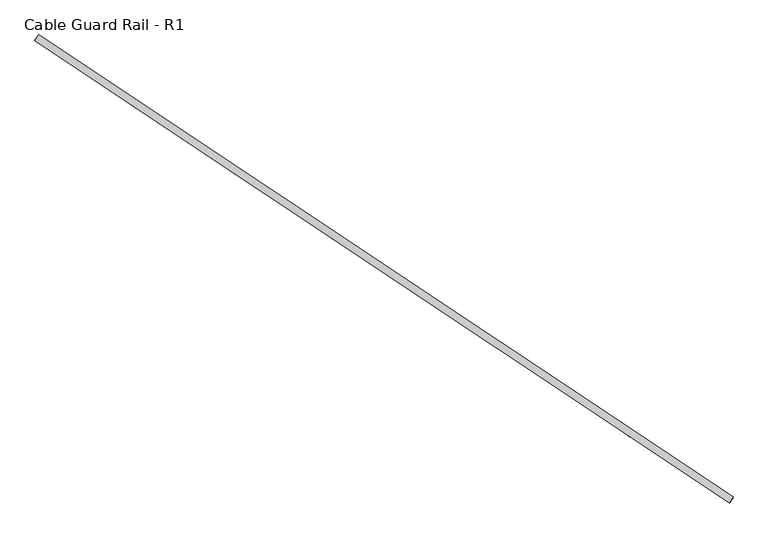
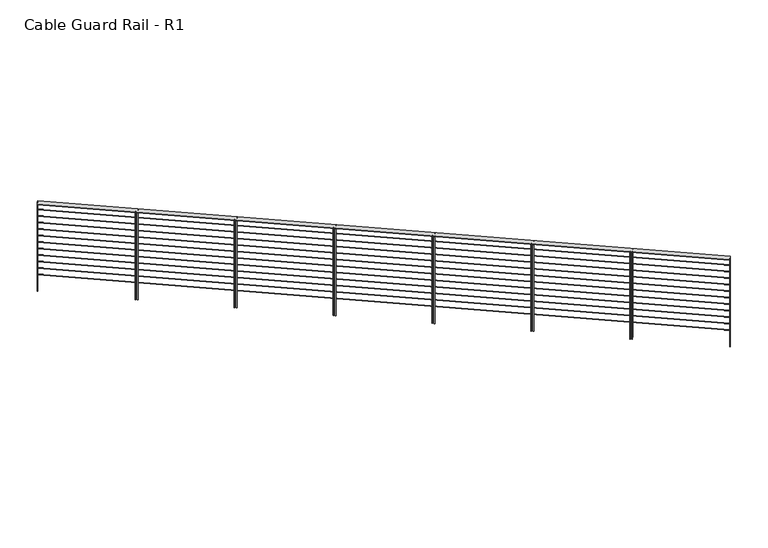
"""IFC4 building model written with IfcOpenShell, lengths in millimetres: railing geometry, Cable Guard Rail - R1."""

from ifc_helpers import new_model, si_unit, frame, origin, place, context, project, spatial, polyline, ellipse_curve, outline, extrude, faceted_brep, source, transform, mapped, element, save
from ifc_brep_helpers import plane_surface, cylinder_surface, advanced_brep


def cable_guard_rail_r1_49ae5d48(model_context):
    return source(origin(), model_context, "Body", "SolidModel", [
        faceted_brep([(47478.7559081, 177920.5615783, 294462.2), (47436.5035564, 177857.1488133, 294462.2), (47436.5035564, 177857.1488133, 294449.4823381), (47478.7559081, 177920.5615783, 294449.4823381), (40044.7334688, 182873.9007104, 294933.4862415), (40044.7334688, 182873.9007104, 294920.7685796), (40002.4811171, 182810.4879453, 294920.7685796), (40002.4811171, 182810.4879453, 294933.4862415)], [[[0, 1, 2, 3]], [[4, 5, 6, 7]], [[1, 0, 4, 7]], [[2, 1, 7, 6]], [[3, 2, 6, 5]], [[0, 3, 5, 4]]]),
        advanced_brep(
        [(47455.8692176, 177886.2129973, 294347.9), (47459.3902469, 177891.4973943, 294347.9), (40021.8467783, 182839.5521293, 294819.1862415), (40025.3678076, 182844.8365264, 294819.1862415)],
        [
            (0, 1, ellipse_curve(frame((47457.6297323, 177888.8551958, 294347.9), z_axis=(0.8321885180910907, -0.5544928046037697, 0.0), x_axis=(0.0, 0.0, -1.0)), 3.1794155, 3.175)),
            (1, 0, ellipse_curve(frame((47457.6297323, 177888.8551958, 294347.9), z_axis=(0.8321885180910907, -0.5544928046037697, 0.0), x_axis=(0.0, 0.0, -1.0)), 3.1794155, 3.175)),
            (2, 3, ellipse_curve(frame((40023.6072929, 182842.1943278, 294819.1862415), z_axis=(-0.8321885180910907, 0.5544928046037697, 0.0), x_axis=(0.0, 0.0, -1.0)), 3.1794155, 3.175)),
            (3, 2, ellipse_curve(frame((40023.6072929, 182842.1943278, 294819.1862415), z_axis=(-0.8321885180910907, 0.5544928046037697, 0.0), x_axis=(0.0, 0.0, -1.0)), 3.1794155, 3.175)),
            (0, 2),
            (3, 1),
        ],
        [
            plane_surface(frame((47457.6297323, 177888.8551958, 294347.9), z_axis=(0.8321885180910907, -0.5544928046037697, 0.0), x_axis=(0.5544928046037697, 0.8321885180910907, 0.0))),
            plane_surface(frame((40023.6072929, 182842.1943278, 294819.1862415), z_axis=(-0.8321885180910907, 0.5544928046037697, 0.0), x_axis=(0.5544928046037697, 0.8321885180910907, 0.0))),
            cylinder_surface(frame((47457.6297323, 177888.8551958, 294347.9), z_axis=(0.8310328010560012, -0.5537227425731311, -0.052684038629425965), x_axis=(0.5544928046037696, 0.8321885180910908, 0.0)), 3.175),
        ],
        [
            (0, [[1, 2]]),
            (1, [[3, 4]]),
            (2, [[-1, 5, -4, 6]]),
            (2, [[-2, -6, -3, -5]]),
        ],
    ),
        advanced_brep(
        [(47455.8692176, 177886.2129973, 294246.3), (47459.3902469, 177891.4973943, 294246.3), (40021.8467783, 182839.5521293, 294717.5862415), (40025.3678076, 182844.8365264, 294717.5862415)],
        [
            (0, 1, ellipse_curve(frame((47457.6297323, 177888.8551958, 294246.3), z_axis=(0.8321885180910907, -0.5544928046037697, 0.0), x_axis=(0.0, 0.0, -1.0)), 3.1794155, 3.175)),
            (1, 0, ellipse_curve(frame((47457.6297323, 177888.8551958, 294246.3), z_axis=(0.8321885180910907, -0.5544928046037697, 0.0), x_axis=(0.0, 0.0, -1.0)), 3.1794155, 3.175)),
            (2, 3, ellipse_curve(frame((40023.6072929, 182842.1943278, 294717.5862415), z_axis=(-0.8321885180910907, 0.5544928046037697, 0.0), x_axis=(0.0, 0.0, -1.0)), 3.1794155, 3.175)),
            (3, 2, ellipse_curve(frame((40023.6072929, 182842.1943278, 294717.5862415), z_axis=(-0.8321885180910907, 0.5544928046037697, 0.0), x_axis=(0.0, 0.0, -1.0)), 3.1794155, 3.175)),
            (0, 2),
            (3, 1),
        ],
        [
            plane_surface(frame((47457.6297323, 177888.8551958, 294246.3), z_axis=(0.8321885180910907, -0.5544928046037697, 0.0), x_axis=(0.5544928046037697, 0.8321885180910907, 0.0))),
            plane_surface(frame((40023.6072929, 182842.1943278, 294717.5862415), z_axis=(-0.8321885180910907, 0.5544928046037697, 0.0), x_axis=(0.5544928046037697, 0.8321885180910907, 0.0))),
            cylinder_surface(frame((47457.6297323, 177888.8551958, 294246.3), z_axis=(0.8310328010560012, -0.5537227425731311, -0.052684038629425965), x_axis=(0.5544928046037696, 0.8321885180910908, 0.0)), 3.175),
        ],
        [
            (0, [[1, 2]]),
            (1, [[3, 4]]),
            (2, [[-1, 5, -4, 6]]),
            (2, [[-2, -6, -3, -5]]),
        ],
    ),
        advanced_brep(
        [(47455.8692176, 177886.2129973, 294144.7), (47459.3902469, 177891.4973943, 294144.7), (40021.8467783, 182839.5521293, 294615.9862415), (40025.3678076, 182844.8365264, 294615.9862415)],
        [
            (0, 1, ellipse_curve(frame((47457.6297323, 177888.8551958, 294144.7), z_axis=(0.8321885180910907, -0.5544928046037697, 0.0), x_axis=(0.0, 0.0, -1.0)), 3.1794155, 3.175)),
            (1, 0, ellipse_curve(frame((47457.6297323, 177888.8551958, 294144.7), z_axis=(0.8321885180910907, -0.5544928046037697, 0.0), x_axis=(0.0, 0.0, -1.0)), 3.1794155, 3.175)),
            (2, 3, ellipse_curve(frame((40023.6072929, 182842.1943278, 294615.9862415), z_axis=(-0.8321885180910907, 0.5544928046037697, 0.0), x_axis=(0.0, 0.0, -1.0)), 3.1794155, 3.175)),
            (3, 2, ellipse_curve(frame((40023.6072929, 182842.1943278, 294615.9862415), z_axis=(-0.8321885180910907, 0.5544928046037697, 0.0), x_axis=(0.0, 0.0, -1.0)), 3.1794155, 3.175)),
            (0, 2),
            (3, 1),
        ],
        [
            plane_surface(frame((47457.6297323, 177888.8551958, 294144.7), z_axis=(0.8321885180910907, -0.5544928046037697, 0.0), x_axis=(0.5544928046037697, 0.8321885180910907, 0.0))),
            plane_surface(frame((40023.6072929, 182842.1943278, 294615.9862415), z_axis=(-0.8321885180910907, 0.5544928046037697, 0.0), x_axis=(0.5544928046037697, 0.8321885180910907, 0.0))),
            cylinder_surface(frame((47457.6297323, 177888.8551958, 294144.7), z_axis=(0.8310328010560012, -0.5537227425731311, -0.052684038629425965), x_axis=(0.5544928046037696, 0.8321885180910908, 0.0)), 3.175),
        ],
        [
            (0, [[1, 2]]),
            (1, [[3, 4]]),
            (2, [[-1, 5, -4, 6]]),
            (2, [[-2, -6, -3, -5]]),
        ],
    ),
        advanced_brep(
        [(47455.8692176, 177886.2129973, 294043.1), (47459.3902469, 177891.4973943, 294043.1), (40021.8467783, 182839.5521293, 294514.3862415), (40025.3678076, 182844.8365264, 294514.3862415)],
        [
            (0, 1, ellipse_curve(frame((47457.6297323, 177888.8551958, 294043.1), z_axis=(0.8321885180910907, -0.5544928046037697, 0.0), x_axis=(0.0, 0.0, -1.0)), 3.1794155, 3.175)),
            (1, 0, ellipse_curve(frame((47457.6297323, 177888.8551958, 294043.1), z_axis=(0.8321885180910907, -0.5544928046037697, 0.0), x_axis=(0.0, 0.0, -1.0)), 3.1794155, 3.175)),
            (2, 3, ellipse_curve(frame((40023.6072929, 182842.1943278, 294514.3862415), z_axis=(-0.8321885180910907, 0.5544928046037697, 0.0), x_axis=(0.0, 0.0, -1.0)), 3.1794155, 3.175)),
            (3, 2, ellipse_curve(frame((40023.6072929, 182842.1943278, 294514.3862415), z_axis=(-0.8321885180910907, 0.5544928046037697, 0.0), x_axis=(0.0, 0.0, -1.0)), 3.1794155, 3.175)),
            (0, 2),
            (3, 1),
        ],
        [
            plane_surface(frame((47457.6297323, 177888.8551958, 294043.1), z_axis=(0.8321885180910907, -0.5544928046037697, 0.0), x_axis=(0.5544928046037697, 0.8321885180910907, 0.0))),
            plane_surface(frame((40023.6072929, 182842.1943278, 294514.3862415), z_axis=(-0.8321885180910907, 0.5544928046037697, 0.0), x_axis=(0.5544928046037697, 0.8321885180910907, 0.0))),
            cylinder_surface(frame((47457.6297323, 177888.8551958, 294043.1), z_axis=(0.8310328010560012, -0.5537227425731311, -0.052684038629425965), x_axis=(0.5544928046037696, 0.8321885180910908, 0.0)), 3.175),
        ],
        [
            (0, [[1, 2]]),
            (1, [[3, 4]]),
            (2, [[-1, 5, -4, 6]]),
            (2, [[-2, -6, -3, -5]]),
        ],
    ),
        advanced_brep(
        [(47455.8692176, 177886.2129973, 293941.5), (47459.3902469, 177891.4973943, 293941.5), (40021.8467783, 182839.5521293, 294412.7862415), (40025.3678076, 182844.8365264, 294412.7862415)],
        [
            (0, 1, ellipse_curve(frame((47457.6297323, 177888.8551958, 293941.5), z_axis=(0.8321885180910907, -0.5544928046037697, 0.0), x_axis=(0.0, 0.0, -1.0)), 3.1794155, 3.175)),
            (1, 0, ellipse_curve(frame((47457.6297323, 177888.8551958, 293941.5), z_axis=(0.8321885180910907, -0.5544928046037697, 0.0), x_axis=(0.0, 0.0, -1.0)), 3.1794155, 3.175)),
            (2, 3, ellipse_curve(frame((40023.6072929, 182842.1943278, 294412.7862415), z_axis=(-0.8321885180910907, 0.5544928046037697, 0.0), x_axis=(0.0, 0.0, -1.0)), 3.1794155, 3.175)),
            (3, 2, ellipse_curve(frame((40023.6072929, 182842.1943278, 294412.7862415), z_axis=(-0.8321885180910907, 0.5544928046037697, 0.0), x_axis=(0.0, 0.0, -1.0)), 3.1794155, 3.175)),
            (0, 2),
            (3, 1),
        ],
        [
            plane_surface(frame((47457.6297323, 177888.8551958, 293941.5), z_axis=(0.8321885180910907, -0.5544928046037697, 0.0), x_axis=(0.5544928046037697, 0.8321885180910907, 0.0))),
            plane_surface(frame((40023.6072929, 182842.1943278, 294412.7862415), z_axis=(-0.8321885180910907, 0.5544928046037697, 0.0), x_axis=(0.5544928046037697, 0.8321885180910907, 0.0))),
            cylinder_surface(frame((47457.6297323, 177888.8551958, 293941.5), z_axis=(0.8310328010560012, -0.5537227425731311, -0.052684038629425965), x_axis=(0.5544928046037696, 0.8321885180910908, 0.0)), 3.175),
        ],
        [
            (0, [[1, 2]]),
            (1, [[3, 4]]),
            (2, [[-1, 5, -4, 6]]),
            (2, [[-2, -6, -3, -5]]),
        ],
    ),
        advanced_brep(
        [(47455.8692176, 177886.2129973, 293839.9), (47459.3902469, 177891.4973943, 293839.9), (40021.8467783, 182839.5521293, 294311.1862415), (40025.3678076, 182844.8365264, 294311.1862415)],
        [
            (0, 1, ellipse_curve(frame((47457.6297323, 177888.8551958, 293839.9), z_axis=(0.8321885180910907, -0.5544928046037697, 0.0), x_axis=(0.0, 0.0, -1.0)), 3.1794155, 3.175)),
            (1, 0, ellipse_curve(frame((47457.6297323, 177888.8551958, 293839.9), z_axis=(0.8321885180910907, -0.5544928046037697, 0.0), x_axis=(0.0, 0.0, -1.0)), 3.1794155, 3.175)),
            (2, 3, ellipse_curve(frame((40023.6072929, 182842.1943278, 294311.1862415), z_axis=(-0.8321885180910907, 0.5544928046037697, 0.0), x_axis=(0.0, 0.0, -1.0)), 3.1794155, 3.175)),
            (3, 2, ellipse_curve(frame((40023.6072929, 182842.1943278, 294311.1862415), z_axis=(-0.8321885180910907, 0.5544928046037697, 0.0), x_axis=(0.0, 0.0, -1.0)), 3.1794155, 3.175)),
            (0, 2),
            (3, 1),
        ],
        [
            plane_surface(frame((47457.6297323, 177888.8551958, 293839.9), z_axis=(0.8321885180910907, -0.5544928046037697, 0.0), x_axis=(0.5544928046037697, 0.8321885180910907, 0.0))),
            plane_surface(frame((40023.6072929, 182842.1943278, 294311.1862415), z_axis=(-0.8321885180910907, 0.5544928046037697, 0.0), x_axis=(0.5544928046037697, 0.8321885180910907, 0.0))),
            cylinder_surface(frame((47457.6297323, 177888.8551958, 293839.9), z_axis=(0.8310328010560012, -0.5537227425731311, -0.052684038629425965), x_axis=(0.5544928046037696, 0.8321885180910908, 0.0)), 3.175),
        ],
        [
            (0, [[1, 2]]),
            (1, [[3, 4]]),
            (2, [[-1, 5, -4, 6]]),
            (2, [[-2, -6, -3, -5]]),
        ],
    ),
        advanced_brep(
        [(47455.8692176, 177886.2129973, 293738.3), (47459.3902469, 177891.4973943, 293738.3), (40021.8467783, 182839.5521293, 294209.5862415), (40025.3678076, 182844.8365264, 294209.5862415)],
        [
            (0, 1, ellipse_curve(frame((47457.6297323, 177888.8551958, 293738.3), z_axis=(0.8321885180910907, -0.5544928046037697, 0.0), x_axis=(0.0, 0.0, -1.0)), 3.1794155, 3.175)),
            (1, 0, ellipse_curve(frame((47457.6297323, 177888.8551958, 293738.3), z_axis=(0.8321885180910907, -0.5544928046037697, 0.0), x_axis=(0.0, 0.0, -1.0)), 3.1794155, 3.175)),
            (2, 3, ellipse_curve(frame((40023.6072929, 182842.1943278, 294209.5862415), z_axis=(-0.8321885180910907, 0.5544928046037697, 0.0), x_axis=(0.0, 0.0, -1.0)), 3.1794155, 3.175)),
            (3, 2, ellipse_curve(frame((40023.6072929, 182842.1943278, 294209.5862415), z_axis=(-0.8321885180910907, 0.5544928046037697, 0.0), x_axis=(0.0, 0.0, -1.0)), 3.1794155, 3.175)),
            (0, 2),
            (3, 1),
        ],
        [
            plane_surface(frame((47457.6297323, 177888.8551958, 293738.3), z_axis=(0.8321885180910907, -0.5544928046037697, 0.0), x_axis=(0.5544928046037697, 0.8321885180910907, 0.0))),
            plane_surface(frame((40023.6072929, 182842.1943278, 294209.5862415), z_axis=(-0.8321885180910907, 0.5544928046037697, 0.0), x_axis=(0.5544928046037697, 0.8321885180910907, 0.0))),
            cylinder_surface(frame((47457.6297323, 177888.8551958, 293738.3), z_axis=(0.8310328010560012, -0.5537227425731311, -0.052684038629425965), x_axis=(0.5544928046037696, 0.8321885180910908, 0.0)), 3.175),
        ],
        [
            (0, [[1, 2]]),
            (1, [[3, 4]]),
            (2, [[-1, 5, -4, 6]]),
            (2, [[-2, -6, -3, -5]]),
        ],
    ),
        advanced_brep(
        [(47455.8692176, 177886.2129973, 293636.7), (47459.3902469, 177891.4973943, 293636.7), (40021.8467783, 182839.5521293, 294107.9862415), (40025.3678076, 182844.8365264, 294107.9862415)],
        [
            (0, 1, ellipse_curve(frame((47457.6297323, 177888.8551958, 293636.7), z_axis=(0.8321885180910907, -0.5544928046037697, 0.0), x_axis=(0.0, 0.0, -1.0)), 3.1794155, 3.175)),
            (1, 0, ellipse_curve(frame((47457.6297323, 177888.8551958, 293636.7), z_axis=(0.8321885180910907, -0.5544928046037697, 0.0), x_axis=(0.0, 0.0, -1.0)), 3.1794155, 3.175)),
            (2, 3, ellipse_curve(frame((40023.6072929, 182842.1943278, 294107.9862415), z_axis=(-0.8321885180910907, 0.5544928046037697, 0.0), x_axis=(0.0, 0.0, -1.0)), 3.1794155, 3.175)),
            (3, 2, ellipse_curve(frame((40023.6072929, 182842.1943278, 294107.9862415), z_axis=(-0.8321885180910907, 0.5544928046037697, 0.0), x_axis=(0.0, 0.0, -1.0)), 3.1794155, 3.175)),
            (0, 2),
            (3, 1),
        ],
        [
            plane_surface(frame((47457.6297323, 177888.8551958, 293636.7), z_axis=(0.8321885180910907, -0.5544928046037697, 0.0), x_axis=(0.5544928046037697, 0.8321885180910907, 0.0))),
            plane_surface(frame((40023.6072929, 182842.1943278, 294107.9862415), z_axis=(-0.8321885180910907, 0.5544928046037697, 0.0), x_axis=(0.5544928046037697, 0.8321885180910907, 0.0))),
            cylinder_surface(frame((47457.6297323, 177888.8551958, 293636.7), z_axis=(0.8310328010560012, -0.5537227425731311, -0.052684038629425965), x_axis=(0.5544928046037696, 0.8321885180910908, 0.0)), 3.175),
        ],
        [
            (0, [[1, 2]]),
            (1, [[3, 4]]),
            (2, [[-1, 5, -4, 6]]),
            (2, [[-2, -6, -3, -5]]),
        ],
    ),
        advanced_brep(
        [(47455.8692176, 177886.2129973, 293535.1), (47459.3902469, 177891.4973943, 293535.1), (40021.8467783, 182839.5521293, 294006.3862415), (40025.3678076, 182844.8365264, 294006.3862415)],
        [
            (0, 1, ellipse_curve(frame((47457.6297323, 177888.8551958, 293535.1), z_axis=(0.8321885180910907, -0.5544928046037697, 0.0), x_axis=(0.0, 0.0, -1.0)), 3.1794155, 3.175)),
            (1, 0, ellipse_curve(frame((47457.6297323, 177888.8551958, 293535.1), z_axis=(0.8321885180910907, -0.5544928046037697, 0.0), x_axis=(0.0, 0.0, -1.0)), 3.1794155, 3.175)),
            (2, 3, ellipse_curve(frame((40023.6072929, 182842.1943278, 294006.3862415), z_axis=(-0.8321885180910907, 0.5544928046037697, 0.0), x_axis=(0.0, 0.0, -1.0)), 3.1794155, 3.175)),
            (3, 2, ellipse_curve(frame((40023.6072929, 182842.1943278, 294006.3862415), z_axis=(-0.8321885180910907, 0.5544928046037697, 0.0), x_axis=(0.0, 0.0, -1.0)), 3.1794155, 3.175)),
            (0, 2),
            (3, 1),
        ],
        [
            plane_surface(frame((47457.6297323, 177888.8551958, 293535.1), z_axis=(0.8321885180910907, -0.5544928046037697, 0.0), x_axis=(0.5544928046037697, 0.8321885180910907, 0.0))),
            plane_surface(frame((40023.6072929, 182842.1943278, 294006.3862415), z_axis=(-0.8321885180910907, 0.5544928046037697, 0.0), x_axis=(0.5544928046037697, 0.8321885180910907, 0.0))),
            cylinder_surface(frame((47457.6297323, 177888.8551958, 293535.1), z_axis=(0.8310328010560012, -0.5537227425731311, -0.052684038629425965), x_axis=(0.5544928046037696, 0.8321885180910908, 0.0)), 3.175),
        ],
        [
            (0, [[1, 2]]),
            (1, [[3, 4]]),
            (2, [[-1, 5, -4, 6]]),
            (2, [[-2, -6, -3, -5]]),
        ],
    ),
        advanced_brep(
        [(47455.8692176, 177886.2129973, 293433.5), (47459.3902469, 177891.4973943, 293433.5), (40021.8467783, 182839.5521293, 293904.7862415), (40025.3678076, 182844.8365264, 293904.7862415)],
        [
            (0, 1, ellipse_curve(frame((47457.6297323, 177888.8551958, 293433.5), z_axis=(0.8321885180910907, -0.5544928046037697, 0.0), x_axis=(0.0, 0.0, -1.0)), 3.1794155, 3.175)),
            (1, 0, ellipse_curve(frame((47457.6297323, 177888.8551958, 293433.5), z_axis=(0.8321885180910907, -0.5544928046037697, 0.0), x_axis=(0.0, 0.0, -1.0)), 3.1794155, 3.175)),
            (2, 3, ellipse_curve(frame((40023.6072929, 182842.1943278, 293904.7862415), z_axis=(-0.8321885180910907, 0.5544928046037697, 0.0), x_axis=(0.0, 0.0, -1.0)), 3.1794155, 3.175)),
            (3, 2, ellipse_curve(frame((40023.6072929, 182842.1943278, 293904.7862415), z_axis=(-0.8321885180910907, 0.5544928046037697, 0.0), x_axis=(0.0, 0.0, -1.0)), 3.1794155, 3.175)),
            (0, 2),
            (3, 1),
        ],
        [
            plane_surface(frame((47457.6297323, 177888.8551958, 293433.5), z_axis=(0.8321885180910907, -0.5544928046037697, 0.0), x_axis=(0.5544928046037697, 0.8321885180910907, 0.0))),
            plane_surface(frame((40023.6072929, 182842.1943278, 293904.7862415), z_axis=(-0.8321885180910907, 0.5544928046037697, 0.0), x_axis=(0.5544928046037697, 0.8321885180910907, 0.0))),
            cylinder_surface(frame((47457.6297323, 177888.8551958, 293433.5), z_axis=(0.8310328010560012, -0.5537227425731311, -0.052684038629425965), x_axis=(0.5544928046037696, 0.8321885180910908, 0.0)), 3.175),
        ],
        [
            (0, [[1, 2]]),
            (1, [[3, 4]]),
            (2, [[-1, 5, -4, 6]]),
            (2, [[-2, -6, -3, -5]]),
        ],
    ),
        advanced_brep(
        [(47455.8692176, 177886.2129973, 293331.9), (47459.3902469, 177891.4973943, 293331.9), (40021.8467783, 182839.5521293, 293803.1862415), (40025.3678076, 182844.8365264, 293803.1862415)],
        [
            (0, 1, ellipse_curve(frame((47457.6297323, 177888.8551958, 293331.9), z_axis=(0.8321885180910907, -0.5544928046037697, 0.0), x_axis=(0.0, 0.0, -1.0)), 3.1794155, 3.175)),
            (1, 0, ellipse_curve(frame((47457.6297323, 177888.8551958, 293331.9), z_axis=(0.8321885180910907, -0.5544928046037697, 0.0), x_axis=(0.0, 0.0, -1.0)), 3.1794155, 3.175)),
            (2, 3, ellipse_curve(frame((40023.6072929, 182842.1943278, 293803.1862415), z_axis=(-0.8321885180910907, 0.5544928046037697, 0.0), x_axis=(0.0, 0.0, -1.0)), 3.1794155, 3.175)),
            (3, 2, ellipse_curve(frame((40023.6072929, 182842.1943278, 293803.1862415), z_axis=(-0.8321885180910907, 0.5544928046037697, 0.0), x_axis=(0.0, 0.0, -1.0)), 3.1794155, 3.175)),
            (0, 2),
            (3, 1),
        ],
        [
            plane_surface(frame((47457.6297323, 177888.8551958, 293331.9), z_axis=(0.8321885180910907, -0.5544928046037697, 0.0), x_axis=(0.5544928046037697, 0.8321885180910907, 0.0))),
            plane_surface(frame((40023.6072929, 182842.1943278, 293803.1862415), z_axis=(-0.8321885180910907, 0.5544928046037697, 0.0), x_axis=(0.5544928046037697, 0.8321885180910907, 0.0))),
            cylinder_surface(frame((47457.6297323, 177888.8551958, 293331.9), z_axis=(0.8310328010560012, -0.5537227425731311, -0.052684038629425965), x_axis=(0.5544928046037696, 0.8321885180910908, 0.0)), 3.175),
        ],
        [
            (0, [[1, 2]]),
            (1, [[3, 4]]),
            (2, [[-1, 5, -4, 6]]),
            (2, [[-2, -6, -3, -5]]),
        ],
    ),
        extrude(outline(polyline([(41082.9797125, 182090.5444667), (41075.0531169, 182095.8260107), (41117.3054686, 182159.2387757), (41125.2320642, 182153.9572318), (41082.9797125, 182090.5444667)])), frame((0.0, 0.0, 293488.2096356), z_axis=(0.0, 0.0, 1.0), x_axis=(1.0, 0.0, 0.0)), (0.0, 0.0, 1.0), 1365.25),
        extrude(outline(polyline([(41059.1999256, 182106.3890986), (41051.3134709, 182111.6438964), (41093.5658226, 182175.0566615), (41101.4522773, 182169.8018637), (41059.1999256, 182106.3890986)])), frame((0.0, 0.0, 293488.2096356), z_axis=(0.0, 0.0, 1.0), x_axis=(1.0, 0.0, 0.0)), (0.0, 0.0, 1.0), 1365.25),
        extrude(outline(polyline([(42144.9829181, 181382.9245907), (42137.0563225, 181388.2061347), (42179.3086742, 181451.6188997), (42187.2352699, 181446.3373558), (42144.9829181, 181382.9245907)])), frame((0.0, 0.0, 293420.8830296), z_axis=(0.0, 0.0, 1.0), x_axis=(1.0, 0.0, 0.0)), (0.0, 0.0, 1.0), 1365.25),
        extrude(outline(polyline([(42121.2031312, 181398.7692226), (42113.3166765, 181404.0240204), (42155.5690283, 181467.4367855), (42163.455483, 181462.1819877), (42121.2031312, 181398.7692226)])), frame((0.0, 0.0, 293420.8830296), z_axis=(0.0, 0.0, 1.0), x_axis=(1.0, 0.0, 0.0)), (0.0, 0.0, 1.0), 1365.25),
        extrude(outline(polyline([(43206.9861238, 180675.3047147), (43199.0595281, 180680.5862587), (43241.3118798, 180743.9990237), (43249.2384755, 180738.7174798), (43206.9861238, 180675.3047147)])), frame((0.0, 0.0, 293353.5564237), z_axis=(0.0, 0.0, 1.0), x_axis=(1.0, 0.0, 0.0)), (0.0, 0.0, 1.0), 1365.25),
        extrude(outline(polyline([(43183.2063369, 180691.1493466), (43175.3198822, 180696.4041444), (43217.5722339, 180759.8169095), (43225.4586886, 180754.5621117), (43183.2063369, 180691.1493466)])), frame((0.0, 0.0, 293353.5564237), z_axis=(0.0, 0.0, 1.0), x_axis=(1.0, 0.0, 0.0)), (0.0, 0.0, 1.0), 1365.25),
        extrude(outline(polyline([(44268.9893294, 179967.6848387), (44261.0627338, 179972.9663827), (44303.3150855, 180036.3791477), (44311.2416811, 180031.0976038), (44268.9893294, 179967.6848387)])), frame((0.0, 0.0, 293286.2298178), z_axis=(0.0, 0.0, 1.0), x_axis=(1.0, 0.0, 0.0)), (0.0, 0.0, 1.0), 1365.25),
        extrude(outline(polyline([(44245.2095425, 179983.5294706), (44237.3230878, 179988.7842684), (44279.5754395, 180052.1970334), (44287.4618942, 180046.9422357), (44245.2095425, 179983.5294706)])), frame((0.0, 0.0, 293286.2298178), z_axis=(0.0, 0.0, 1.0), x_axis=(1.0, 0.0, 0.0)), (0.0, 0.0, 1.0), 1365.25),
        extrude(outline(polyline([(45330.992535, 179260.0649627), (45323.0659394, 179265.3465066), (45365.3182911, 179328.7592717), (45373.2448867, 179323.4777278), (45330.992535, 179260.0649627)])), frame((0.0, 0.0, 293218.9032119), z_axis=(0.0, 0.0, 1.0), x_axis=(1.0, 0.0, 0.0)), (0.0, 0.0, 1.0), 1365.25),
        extrude(outline(polyline([(45307.2127481, 179275.9095946), (45299.3262934, 179281.1643924), (45341.5786451, 179344.5771574), (45349.4650998, 179339.3223597), (45307.2127481, 179275.9095946)])), frame((0.0, 0.0, 293218.9032119), z_axis=(0.0, 0.0, 1.0), x_axis=(1.0, 0.0, 0.0)), (0.0, 0.0, 1.0), 1365.25),
        extrude(outline(polyline([(46392.9957406, 178552.4450867), (46385.069145, 178557.7266306), (46427.3214967, 178621.1393957), (46435.2480923, 178615.8578518), (46392.9957406, 178552.4450867)])), frame((0.0, 0.0, 293151.5766059), z_axis=(0.0, 0.0, 1.0), x_axis=(1.0, 0.0, 0.0)), (0.0, 0.0, 1.0), 1365.25),
        extrude(outline(polyline([(46369.2159537, 178568.2897186), (46361.329499, 178573.5445164), (46403.5818507, 178636.9572814), (46411.4683054, 178631.7024837), (46369.2159537, 178568.2897186)])), frame((0.0, 0.0, 293151.5766059), z_axis=(0.0, 0.0, 1.0), x_axis=(1.0, 0.0, 0.0)), (0.0, 0.0, 1.0), 1365.25),
        extrude(outline(polyline([(40008.6443449, 182814.0118277), (40003.3599479, 182817.532857), (40038.5702409, 182870.3768279), (40043.854638, 182866.8557986), (40008.6443449, 182814.0118277)])), frame((0.0, 0.0, 293555.5362415), z_axis=(0.0, 0.0, 1.0), x_axis=(1.0, 0.0, 0.0)), (0.0, 0.0, 1.0), 1365.25),
        extrude(outline(polyline([(47442.6667843, 177860.6726957), (47437.3823872, 177864.193725), (47472.5926803, 177917.0376959), (47477.8770774, 177913.5166666), (47442.6667843, 177860.6726957)])), frame((0.0, 0.0, 293084.25), z_axis=(0.0, 0.0, 1.0), x_axis=(1.0, 0.0, 0.0)), (0.0, 0.0, 1.0), 1365.25),
    ])


if __name__ == "__main__":
    model = new_model("IFC4")
    model_context = context("Model", 3, world=origin())
    ifc_project = project(units=[si_unit("LENGTHUNIT", "METRE", prefix="MILLI")], contexts=[model_context])
    site = spatial("IfcSite", under=ifc_project)
    building = spatial("IfcBuilding", under=site)
    placement = place(None, origin())
    cable_guard_rail_r1_shape = cable_guard_rail_r1_49ae5d48(model_context)
    element("IfcRailing", 1, ObjectType="Cable Guard Rail - R1", at=placement, inside=building, context=model_context, shape_type="MappedRepresentation", body=[
        mapped(cable_guard_rail_r1_shape, transform((0.0, 0.0, 0.0), x_axis=(1.0, 0.0, 0.0), y_axis=(0.0, 1.0, 0.0), z_axis=(0.0, 0.0, 1.0))),
    ])
    save(model, "model.ifc")
